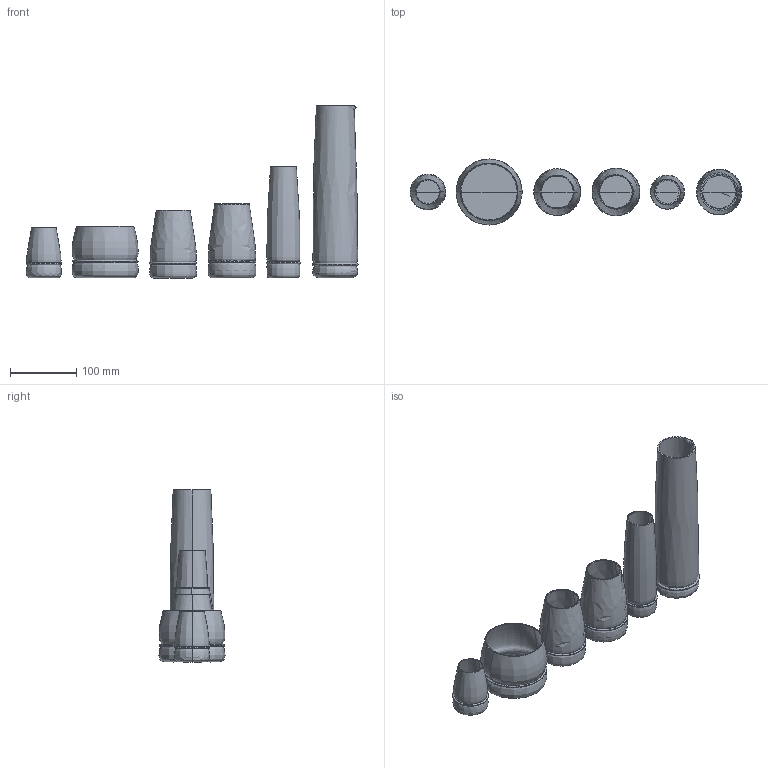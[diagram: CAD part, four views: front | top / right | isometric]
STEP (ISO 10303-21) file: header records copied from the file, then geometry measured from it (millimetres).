
FILE_DESCRIPTION(/* description */ (''),/* implementation_level */ '2;1');
FILE_NAME(/* name */ 'OVIO',/* time_stamp */ '2017-05-31T11:34:40+02:00',/* author */ (''),/* organization */ (''),/* preprocessor_version */ 'ST-DEVELOPER v10',/* originating_system */ '',/* authorisation */ '');
FILE_SCHEMA (('CONFIG_CONTROL_DESIGN'));
Length unit declared in the file: millimetre
Products named in the file (1): 1
Bounding box: 502.22 x 100.23 x 260.58 mm (x, y, z)
Volume: 184787.3 mm3; surface area: 395054.7 mm2
Topology: 8 solids, 28 shells, 87 faces, 229 edges, 148 vertices
Faces by surface type: bspline 87
Entity records: 40119 total; most frequent: CARTESIAN_POINT 38999, ORIENTED_EDGE 334, EDGE_CURVE 205, VERTEX_POINT 148, ADVANCED_FACE 87, FACE_OUTER_BOUND 87, EDGE_LOOP 87, SHELL_BASED_SURFACE_MODEL 20
